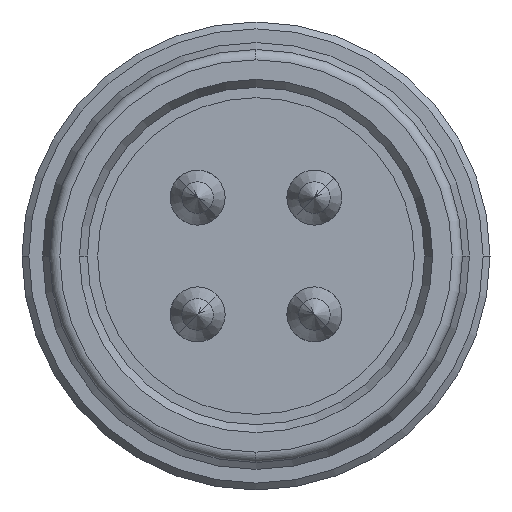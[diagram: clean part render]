
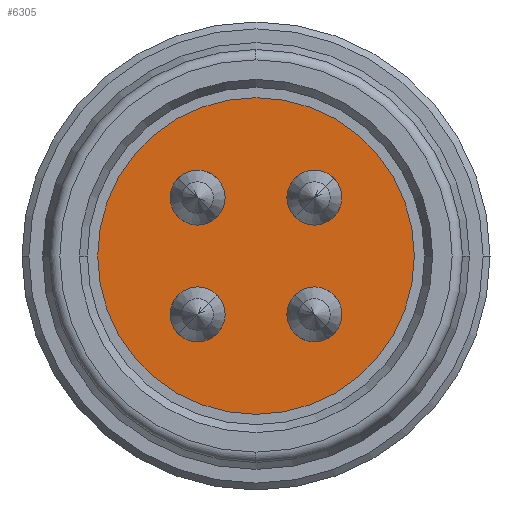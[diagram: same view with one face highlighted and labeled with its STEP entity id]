
A CAD part, left-side view. The second image highlights one B-rep face of the part: STEP entity #6305.
In plain terms, the highlighted planar face has unit normal (-1, 0, 0).
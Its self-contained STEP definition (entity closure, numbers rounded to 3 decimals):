
#3772=CARTESIAN_POINT('',(19.0,-11.5,0.));
#3773=VERTEX_POINT('',#3772);
#3782=CARTESIAN_POINT('',(19.0,11.5,0.));
#3783=VERTEX_POINT('',#3782);
#3784=CARTESIAN_POINT('',(19.0,0.0,0.0));
#3785=DIRECTION('',(1.0,0.0,0.0));
#3786=DIRECTION('',(0.0,-1.0,0.0));
#3787=AXIS2_PLACEMENT_3D('',#3784,#3785,#3786);
#3788=CIRCLE('',#3787,11.5);
#3789=EDGE_CURVE('',#3773,#3783,#3788,.T.);
#3816=CARTESIAN_POINT('',(19.0,4.243,2.243));
#3817=VERTEX_POINT('',#3816);
#3842=CARTESIAN_POINT('',(19.0,4.243,6.243));
#3843=VERTEX_POINT('',#3842);
#3850=CARTESIAN_POINT('',(19.0,4.243,4.243));
#3851=DIRECTION('',(1.0,0.0,0.0));
#3852=DIRECTION('',(0.0,0.0,-1.0));
#3853=AXIS2_PLACEMENT_3D('',#3850,#3851,#3852);
#3854=CIRCLE('',#3853,2.0);
#3855=EDGE_CURVE('',#3817,#3843,#3854,.T.);
#3909=CARTESIAN_POINT('',(19.0,-2.243,4.243));
#3910=VERTEX_POINT('',#3909);
#3935=CARTESIAN_POINT('',(19.0,-6.243,4.243));
#3936=VERTEX_POINT('',#3935);
#3943=CARTESIAN_POINT('',(19.0,-4.243,4.243));
#3944=DIRECTION('',(1.0,0.0,0.0));
#3945=DIRECTION('',(0.0,1.0,0.0));
#3946=AXIS2_PLACEMENT_3D('',#3943,#3944,#3945);
#3947=CIRCLE('',#3946,2.0);
#3948=EDGE_CURVE('',#3910,#3936,#3947,.T.);
#3960=CARTESIAN_POINT('',(19.0,-4.243,-2.243));
#3961=VERTEX_POINT('',#3960);
#3986=CARTESIAN_POINT('',(19.0,-4.243,-6.243));
#3987=VERTEX_POINT('',#3986);
#3994=CARTESIAN_POINT('',(19.0,-4.243,-4.243));
#3995=DIRECTION('',(1.0,0.0,0.0));
#3996=DIRECTION('',(0.0,0.0,1.0));
#3997=AXIS2_PLACEMENT_3D('',#3994,#3995,#3996);
#3998=CIRCLE('',#3997,2.0);
#3999=EDGE_CURVE('',#3961,#3987,#3998,.T.);
#4011=CARTESIAN_POINT('',(19.0,2.243,-4.243));
#4012=VERTEX_POINT('',#4011);
#4037=CARTESIAN_POINT('',(19.0,6.243,-4.243));
#4038=VERTEX_POINT('',#4037);
#4045=CARTESIAN_POINT('',(19.0,4.243,-4.243));
#4046=DIRECTION('',(1.0,0.0,0.0));
#4047=DIRECTION('',(0.0,-1.0,0.0));
#4048=AXIS2_PLACEMENT_3D('',#4045,#4046,#4047);
#4049=CIRCLE('',#4048,2.0);
#4050=EDGE_CURVE('',#4012,#4038,#4049,.T.);
#6176=CARTESIAN_POINT('',(19.0,4.243,-4.243));
#6177=DIRECTION('',(1.0,0.0,0.0));
#6178=DIRECTION('',(0.0,-1.0,0.0));
#6179=AXIS2_PLACEMENT_3D('',#6176,#6177,#6178);
#6180=CIRCLE('',#6179,2.0);
#6181=EDGE_CURVE('',#4038,#4012,#6180,.T.);
#6195=CARTESIAN_POINT('',(19.0,-4.243,-4.243));
#6196=DIRECTION('',(1.0,0.0,0.0));
#6197=DIRECTION('',(0.0,0.0,1.0));
#6198=AXIS2_PLACEMENT_3D('',#6195,#6196,#6197);
#6199=CIRCLE('',#6198,2.0);
#6200=EDGE_CURVE('',#3987,#3961,#6199,.T.);
#6214=CARTESIAN_POINT('',(19.0,-4.243,4.243));
#6215=DIRECTION('',(1.0,0.0,0.0));
#6216=DIRECTION('',(0.0,1.0,0.0));
#6217=AXIS2_PLACEMENT_3D('',#6214,#6215,#6216);
#6218=CIRCLE('',#6217,2.0);
#6219=EDGE_CURVE('',#3936,#3910,#6218,.T.);
#6252=CARTESIAN_POINT('',(19.0,4.243,4.243));
#6253=DIRECTION('',(1.0,0.0,0.0));
#6254=DIRECTION('',(0.0,0.0,-1.0));
#6255=AXIS2_PLACEMENT_3D('',#6252,#6253,#6254);
#6256=CIRCLE('',#6255,2.0);
#6257=EDGE_CURVE('',#3843,#3817,#6256,.T.);
#6265=CARTESIAN_POINT('',(19.0,0.,1.045));
#6266=DIRECTION('',(1.0,0.0,0.0));
#6267=DIRECTION('',(0.0,0.0,-1.0));
#6268=AXIS2_PLACEMENT_3D('',#6265,#6266,#6267);
#6269=PLANE('',#6268);
#6270=CARTESIAN_POINT('',(19.0,0.,11.5));
#6271=VERTEX_POINT('',#6270);
#6272=CARTESIAN_POINT('',(19.0,0.0,0.0));
#6273=DIRECTION('',(1.0,0.0,0.0));
#6274=DIRECTION('',(0.0,-1.0,0.0));
#6275=AXIS2_PLACEMENT_3D('',#6272,#6273,#6274);
#6276=CIRCLE('',#6275,11.5);
#6277=EDGE_CURVE('',#6271,#3773,#6276,.T.);
#6278=ORIENTED_EDGE('',*,*,#6277,.F.);
#6279=CARTESIAN_POINT('',(19.0,0.0,0.0));
#6280=DIRECTION('',(1.0,0.0,0.0));
#6281=DIRECTION('',(0.0,-1.0,0.0));
#6282=AXIS2_PLACEMENT_3D('',#6279,#6280,#6281);
#6283=CIRCLE('',#6282,11.5);
#6284=EDGE_CURVE('',#3783,#6271,#6283,.T.);
#6285=ORIENTED_EDGE('',*,*,#6284,.F.);
#6286=ORIENTED_EDGE('',*,*,#3789,.F.);
#6287=EDGE_LOOP('',(#6278,#6285,#6286));
#6288=FACE_OUTER_BOUND('',#6287,.T.);
#6289=ORIENTED_EDGE('',*,*,#6181,.T.);
#6290=ORIENTED_EDGE('',*,*,#4050,.T.);
#6291=EDGE_LOOP('',(#6289,#6290));
#6292=FACE_BOUND('',#6291,.T.);
#6293=ORIENTED_EDGE('',*,*,#6200,.T.);
#6294=ORIENTED_EDGE('',*,*,#3999,.T.);
#6295=EDGE_LOOP('',(#6293,#6294));
#6296=FACE_BOUND('',#6295,.T.);
#6297=ORIENTED_EDGE('',*,*,#6219,.T.);
#6298=ORIENTED_EDGE('',*,*,#3948,.T.);
#6299=EDGE_LOOP('',(#6297,#6298));
#6300=FACE_BOUND('',#6299,.T.);
#6301=ORIENTED_EDGE('',*,*,#6257,.T.);
#6302=ORIENTED_EDGE('',*,*,#3855,.T.);
#6303=EDGE_LOOP('',(#6301,#6302));
#6304=FACE_BOUND('',#6303,.T.);
#6305=ADVANCED_FACE('',(#6288,#6292,#6296,#6300,#6304),#6269,.F.);
